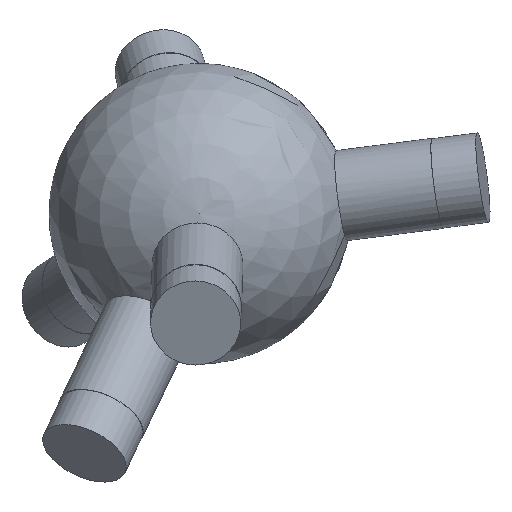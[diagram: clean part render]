
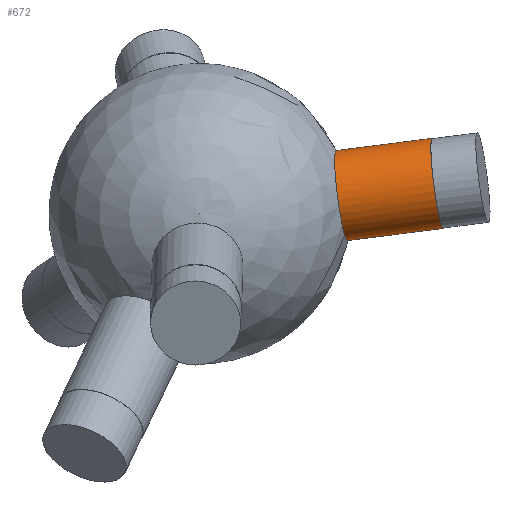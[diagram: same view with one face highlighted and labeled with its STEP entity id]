
A CAD part, top view. The second image highlights one B-rep face of the part: STEP entity #672.
In plain terms, the highlighted cylindrical face has radius 6 mm (diameter 12 mm), a full revolution.
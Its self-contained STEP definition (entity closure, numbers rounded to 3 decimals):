
#22 = VERTEX_POINT('',#23);
#23 = CARTESIAN_POINT('',(18.602,0.,
    7.345));
#33 = SPHERICAL_SURFACE('',#34,20.);
#34 = AXIS2_PLACEMENT_3D('',#35,#36,#37);
#35 = CARTESIAN_POINT('',(0.,0.,0.));
#36 = DIRECTION('',(0.,0.,1.));
#37 = DIRECTION('',(1.,0.,-0.));
#53 = EDGE_CURVE('',#54,#22,#56,.T.);
#54 = VERTEX_POINT('',#55);
#55 = CARTESIAN_POINT('',(18.081,8.346,1.848)
  );
#56 = SURFACE_CURVE('',#57,(#62,#89),.PCURVE_S1.);
#57 = CIRCLE('',#58,6.);
#58 = AXIS2_PLACEMENT_3D('',#59,#60,#61);
#59 = CARTESIAN_POINT('',(18.838,2.394,1.848)
  );
#60 = DIRECTION('',(0.987,0.125,0.097));
#61 = DIRECTION('',(-0.126,0.992,0.));
#62 = PCURVE('',#33,#63);
#63 = DEFINITIONAL_REPRESENTATION('',(#64),#88);
#64 = B_SPLINE_CURVE_WITH_KNOTS('',8,(#65,#66,#67,#68,#69,#70,#71,#72,
    #73,#74,#75,#76,#77,#78,#79,#80,#81,#82,#83,#84,#85,#86,#87),
  .UNSPECIFIED.,.F.,.F.,(9,7,7,9),(0.,0.986,1.479,
    1.972),.UNSPECIFIED.);
#65 = CARTESIAN_POINT('',(0.432,0.093));
#66 = CARTESIAN_POINT('',(0.434,0.13));
#67 = CARTESIAN_POINT('',(0.43,0.167));
#68 = CARTESIAN_POINT('',(0.421,0.203));
#69 = CARTESIAN_POINT('',(0.407,0.238));
#70 = CARTESIAN_POINT('',(0.388,0.271));
#71 = CARTESIAN_POINT('',(0.364,0.301));
#72 = CARTESIAN_POINT('',(0.335,0.327));
#73 = CARTESIAN_POINT('',(0.288,0.359));
#74 = CARTESIAN_POINT('',(0.271,0.369));
#75 = CARTESIAN_POINT('',(0.253,0.377));
#76 = CARTESIAN_POINT('',(0.234,0.385));
#77 = CARTESIAN_POINT('',(0.215,0.391));
#78 = CARTESIAN_POINT('',(0.196,0.395));
#79 = CARTESIAN_POINT('',(0.176,0.399));
#80 = CARTESIAN_POINT('',(0.136,0.402));
#81 = CARTESIAN_POINT('',(0.116,0.403));
#82 = CARTESIAN_POINT('',(0.096,0.402));
#83 = CARTESIAN_POINT('',(0.076,0.399));
#84 = CARTESIAN_POINT('',(0.056,0.395));
#85 = CARTESIAN_POINT('',(0.037,0.39));
#86 = CARTESIAN_POINT('',(0.018,0.384));
#87 = CARTESIAN_POINT('',(0.,0.376));
#88 = ( GEOMETRIC_REPRESENTATION_CONTEXT(2) 
PARAMETRIC_REPRESENTATION_CONTEXT() REPRESENTATION_CONTEXT('2D SPACE',''
  ) );
#89 = PCURVE('',#90,#95);
#90 = CYLINDRICAL_SURFACE('',#91,6.);
#91 = AXIS2_PLACEMENT_3D('',#92,#93,#94);
#92 = CARTESIAN_POINT('',(0.,0.,0.));
#93 = DIRECTION('',(0.987,0.125,0.097));
#94 = DIRECTION('',(-0.126,0.992,0.));
#95 = DEFINITIONAL_REPRESENTATION('',(#96),#100);
#96 = LINE('',#97,#98);
#97 = CARTESIAN_POINT('',(0.,19.079));
#98 = VECTOR('',#99,1.);
#99 = DIRECTION('',(1.,0.));
#100 = ( GEOMETRIC_REPRESENTATION_CONTEXT(2) 
PARAMETRIC_REPRESENTATION_CONTEXT() REPRESENTATION_CONTEXT('2D SPACE',''
  ) );
#102 = EDGE_CURVE('',#103,#54,#105,.T.);
#103 = VERTEX_POINT('',#104);
#104 = CARTESIAN_POINT('',(19.675,0.,
    -3.589));
#105 = SURFACE_CURVE('',#106,(#111,#131),.PCURVE_S1.);
#106 = CIRCLE('',#107,6.);
#107 = AXIS2_PLACEMENT_3D('',#108,#109,#110);
#108 = CARTESIAN_POINT('',(18.838,2.394,1.848)
  );
#109 = DIRECTION('',(0.987,0.125,0.097));
#110 = DIRECTION('',(-0.126,0.992,0.));
#111 = PCURVE('',#33,#112);
#112 = DEFINITIONAL_REPRESENTATION('',(#113),#130);
#113 = B_SPLINE_CURVE_WITH_KNOTS('',8,(#114,#115,#116,#117,#118,#119,
    #120,#121,#122,#123,#124,#125,#126,#127,#128,#129),.UNSPECIFIED.,.F.
  ,.F.,(9,7,9),(4.286,5.285,6.283),
  .UNSPECIFIED.);
#114 = CARTESIAN_POINT('',(0.,-0.18));
#115 = CARTESIAN_POINT('',(0.035,-0.196));
#116 = CARTESIAN_POINT('',(0.072,-0.207));
#117 = CARTESIAN_POINT('',(0.11,-0.212));
#118 = CARTESIAN_POINT('',(0.149,-0.212));
#119 = CARTESIAN_POINT('',(0.188,-0.207));
#120 = CARTESIAN_POINT('',(0.225,-0.196));
#121 = CARTESIAN_POINT('',(0.26,-0.18));
#122 = CARTESIAN_POINT('',(0.323,-0.139));
#123 = CARTESIAN_POINT('',(0.352,-0.114));
#124 = CARTESIAN_POINT('',(0.377,-0.085));
#125 = CARTESIAN_POINT('',(0.398,-0.053));
#126 = CARTESIAN_POINT('',(0.414,-0.018));
#127 = CARTESIAN_POINT('',(0.425,0.018));
#128 = CARTESIAN_POINT('',(0.431,0.055));
#129 = CARTESIAN_POINT('',(0.432,0.093));
#130 = ( GEOMETRIC_REPRESENTATION_CONTEXT(2) 
PARAMETRIC_REPRESENTATION_CONTEXT() REPRESENTATION_CONTEXT('2D SPACE',''
  ) );
#131 = PCURVE('',#90,#132);
#132 = DEFINITIONAL_REPRESENTATION('',(#133),#137);
#133 = LINE('',#134,#135);
#134 = CARTESIAN_POINT('',(0.,19.079));
#135 = VECTOR('',#136,1.);
#136 = DIRECTION('',(1.,0.));
#137 = ( GEOMETRIC_REPRESENTATION_CONTEXT(2) 
PARAMETRIC_REPRESENTATION_CONTEXT() REPRESENTATION_CONTEXT('2D SPACE',''
  ) );
#164 = EDGE_CURVE('',#22,#103,#165,.T.);
#165 = SURFACE_CURVE('',#166,(#171,#195),.PCURVE_S1.);
#166 = CIRCLE('',#167,6.);
#167 = AXIS2_PLACEMENT_3D('',#168,#169,#170);
#168 = CARTESIAN_POINT('',(18.838,2.394,1.848)
  );
#169 = DIRECTION('',(0.987,0.125,0.097));
#170 = DIRECTION('',(-0.126,0.992,0.));
#171 = PCURVE('',#33,#172);
#172 = DEFINITIONAL_REPRESENTATION('',(#173),#194);
#173 = B_SPLINE_CURVE_WITH_KNOTS('',7,(#174,#175,#176,#177,#178,#179,
    #180,#181,#182,#183,#184,#185,#186,#187,#188,#189,#190,#191,#192,
    #193),.UNSPECIFIED.,.F.,.F.,(8,6,6,8),(1.972,2.551,
    3.419,4.286),.UNSPECIFIED.);
#174 = CARTESIAN_POINT('',(6.283,0.376));
#175 = CARTESIAN_POINT('',(6.259,0.366));
#176 = CARTESIAN_POINT('',(6.236,0.353));
#177 = CARTESIAN_POINT('',(6.215,0.338));
#178 = CARTESIAN_POINT('',(6.195,0.321));
#179 = CARTESIAN_POINT('',(6.177,0.303));
#180 = CARTESIAN_POINT('',(6.162,0.283));
#181 = CARTESIAN_POINT('',(6.129,0.23));
#182 = CARTESIAN_POINT('',(6.114,0.195));
#183 = CARTESIAN_POINT('',(6.104,0.159));
#184 = CARTESIAN_POINT('',(6.1,0.121));
#185 = CARTESIAN_POINT('',(6.1,0.083));
#186 = CARTESIAN_POINT('',(6.106,0.046));
#187 = CARTESIAN_POINT('',(6.128,-0.025));
#188 = CARTESIAN_POINT('',(6.143,-0.059));
#189 = CARTESIAN_POINT('',(6.164,-0.091));
#190 = CARTESIAN_POINT('',(6.188,-0.12));
#191 = CARTESIAN_POINT('',(6.217,-0.144));
#192 = CARTESIAN_POINT('',(6.249,-0.165));
#193 = CARTESIAN_POINT('',(6.283,-0.18));
#194 = ( GEOMETRIC_REPRESENTATION_CONTEXT(2) 
PARAMETRIC_REPRESENTATION_CONTEXT() REPRESENTATION_CONTEXT('2D SPACE',''
  ) );
#195 = PCURVE('',#90,#196);
#196 = DEFINITIONAL_REPRESENTATION('',(#197),#201);
#197 = LINE('',#198,#199);
#198 = CARTESIAN_POINT('',(0.,19.079));
#199 = VECTOR('',#200,1.);
#200 = DIRECTION('',(1.,0.));
#201 = ( GEOMETRIC_REPRESENTATION_CONTEXT(2) 
PARAMETRIC_REPRESENTATION_CONTEXT() REPRESENTATION_CONTEXT('2D SPACE',''
  ) );
#672 = ADVANCED_FACE('',(#673),#90,.T.);
#673 = FACE_BOUND('',#674,.T.);
#674 = EDGE_LOOP('',(#675,#698,#725,#726,#727,#728));
#675 = ORIENTED_EDGE('',*,*,#676,.T.);
#676 = EDGE_CURVE('',#54,#677,#679,.T.);
#677 = VERTEX_POINT('',#678);
#678 = CARTESIAN_POINT('',(30.793,9.961,3.095)
  );
#679 = SEAM_CURVE('',#680,(#684,#691),.PCURVE_S1.);
#680 = LINE('',#681,#682);
#681 = CARTESIAN_POINT('',(-0.756,5.952,
    0.));
#682 = VECTOR('',#683,1.);
#683 = DIRECTION('',(0.987,0.125,0.097));
#684 = PCURVE('',#90,#685);
#685 = DEFINITIONAL_REPRESENTATION('',(#686),#690);
#686 = LINE('',#687,#688);
#687 = CARTESIAN_POINT('',(6.283,-0.));
#688 = VECTOR('',#689,1.);
#689 = DIRECTION('',(0.,1.));
#690 = ( GEOMETRIC_REPRESENTATION_CONTEXT(2) 
PARAMETRIC_REPRESENTATION_CONTEXT() REPRESENTATION_CONTEXT('2D SPACE',''
  ) );
#691 = PCURVE('',#90,#692);
#692 = DEFINITIONAL_REPRESENTATION('',(#693),#697);
#693 = LINE('',#694,#695);
#694 = CARTESIAN_POINT('',(0.,-0.));
#695 = VECTOR('',#696,1.);
#696 = DIRECTION('',(0.,1.));
#697 = ( GEOMETRIC_REPRESENTATION_CONTEXT(2) 
PARAMETRIC_REPRESENTATION_CONTEXT() REPRESENTATION_CONTEXT('2D SPACE',''
  ) );
#698 = ORIENTED_EDGE('',*,*,#699,.F.);
#699 = EDGE_CURVE('',#677,#677,#700,.T.);
#700 = SURFACE_CURVE('',#701,(#706,#713),.PCURVE_S1.);
#701 = CIRCLE('',#702,6.);
#702 = AXIS2_PLACEMENT_3D('',#703,#704,#705);
#703 = CARTESIAN_POINT('',(31.549,4.009,3.095
    ));
#704 = DIRECTION('',(0.987,0.125,0.097));
#705 = DIRECTION('',(-0.126,0.992,0.));
#706 = PCURVE('',#90,#707);
#707 = DEFINITIONAL_REPRESENTATION('',(#708),#712);
#708 = LINE('',#709,#710);
#709 = CARTESIAN_POINT('',(0.,31.953));
#710 = VECTOR('',#711,1.);
#711 = DIRECTION('',(1.,0.));
#712 = ( GEOMETRIC_REPRESENTATION_CONTEXT(2) 
PARAMETRIC_REPRESENTATION_CONTEXT() REPRESENTATION_CONTEXT('2D SPACE',''
  ) );
#713 = PCURVE('',#714,#719);
#714 = PLANE('',#715);
#715 = AXIS2_PLACEMENT_3D('',#716,#717,#718);
#716 = CARTESIAN_POINT('',(31.549,4.009,3.095
    ));
#717 = DIRECTION('',(0.987,0.125,0.097));
#718 = DIRECTION('',(-0.126,0.992,0.));
#719 = DEFINITIONAL_REPRESENTATION('',(#720),#724);
#720 = CIRCLE('',#721,6.);
#721 = AXIS2_PLACEMENT_2D('',#722,#723);
#722 = CARTESIAN_POINT('',(0.,0.));
#723 = DIRECTION('',(1.,0.));
#724 = ( GEOMETRIC_REPRESENTATION_CONTEXT(2) 
PARAMETRIC_REPRESENTATION_CONTEXT() REPRESENTATION_CONTEXT('2D SPACE',''
  ) );
#725 = ORIENTED_EDGE('',*,*,#676,.F.);
#726 = ORIENTED_EDGE('',*,*,#53,.T.);
#727 = ORIENTED_EDGE('',*,*,#164,.T.);
#728 = ORIENTED_EDGE('',*,*,#102,.T.);
